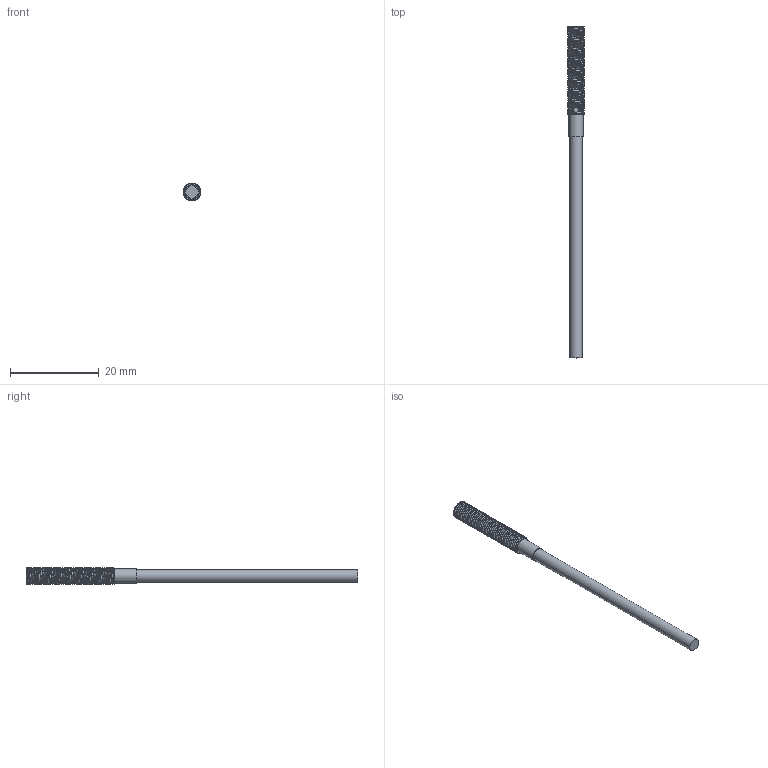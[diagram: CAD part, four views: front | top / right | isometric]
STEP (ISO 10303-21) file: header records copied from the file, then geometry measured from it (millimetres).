
FILE_DESCRIPTION(/* description */ (''),/* implementation_level */ '2;1');
FILE_NAME(/* name */ 'F:\HUAYIFENG\01)HUAYIFENG_宣传文件\01)HUAYIFENG_\X2\5BA34F2065874EF6\X0\_产品资料整合\03)产品3D文档\04)产品3D_接近系列_K12_2019\超小圆柱型接近传感器\PDE04.stp',/* time_stamp */ '2019-07-24T16:46:57+08:00',/* author */ ('fengjiarun'),/* organization */ (''),/* preprocessor_version */ 'ST-DEVELOPER v16.5',/* originating_system */ 'Autodesk Inventor 2017',/* authorisation */ '');
FILE_SCHEMA (('AUTOMOTIVE_DESIGN { 1 0 10303 214 3 1 1 }'));
Length unit declared in the file: millimetre
Products named in the file (1): PDE04
Bounding box: 4 x 75 x 4 mm (x, y, z)
Volume: 561.2 mm3; surface area: 1346.2 mm2
Topology: 2 solids, 2 shells, 38 faces, 99 edges, 66 vertices
Faces by surface type: bspline 20, cylinder 9, plane 8, torus 1
Full cylindrical faces by diameter (mm): 1.2 x2, 2.8 x1, 3.24 x1, 3.259 x2
Entity records: 13407 total; most frequent: CARTESIAN_POINT 12681, ORIENTED_EDGE 170, EDGE_CURVE 85, DIRECTION 76, B_SPLINE_CURVE_WITH_KNOTS 66, VERTEX_POINT 61, EDGE_LOOP 52, FACE_OUTER_BOUND 38
